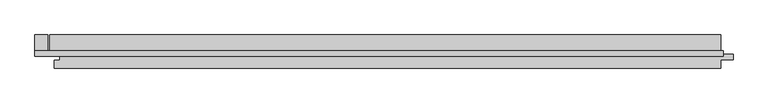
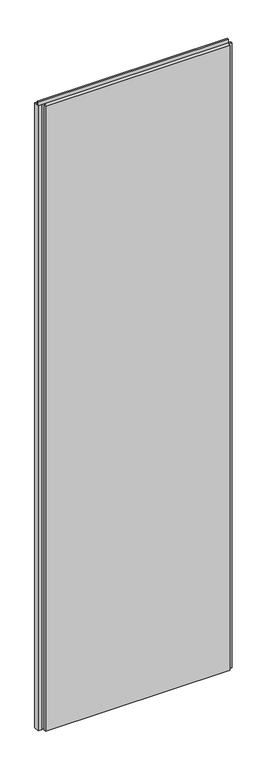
"""IFC4 building model written with IfcOpenShell, lengths in millimetres: plate geometry, Trimo_Qbiss Screen_Normal Panel-VERTICAL : HR - FB."""

from ifc_helpers import new_model, si_unit, frame, origin, place, context, project, spatial, polyline, outline, extrude, source, transform, mapped, element, save


def plate_8625c289(model_context):
    return source(origin(), model_context, "Body", "SweptSolid", [
        extrude(outline(polyline([(-531.0, 97.0), (-531.0, 126.0), (-512.0, 126.0), (-512.0, 97.0), (-531.0, 97.0)])), frame((0.0, 0.0, 12.5), z_axis=(0.0, 0.0, 1.0), x_axis=(1.0, 0.0, 0.0)), (0.0, 0.0, 1.0), 3575.0),
        extrude(outline(polyline([(-531.0, 93.9), (-531.0, 102.6), (500.0, 102.6), (500.0, 93.9), (-531.0, 93.9)])), frame((0.0, 0.0, 3590.5), z_axis=(0.0, 0.0, 1.0), x_axis=(1.0, 0.0, 0.0)), (0.0, 0.0, 1.0), 19.0),
        extrude(outline(polyline([(496.0, 97.0), (514.5, 97.0), (514.5, 89.0), (496.0, 89.0), (496.0, 76.0), (-502.0, 76.0), (-502.0, 88.0), (-493.5, 88.0), (-493.5, 98.0), (-509.0, 98.0), (-509.0, 126.0), (496.0, 126.0), (496.0, 97.0)])), frame((0.0, 0.0, 12.5), z_axis=(0.0, 0.0, 1.0), x_axis=(1.0, 0.0, 0.0)), (0.0, 0.0, 1.0), 3575.0),
    ])


if __name__ == "__main__":
    model = new_model("IFC4")
    model_context = context("Model", 3, world=origin())
    ifc_project = project(units=[si_unit("LENGTHUNIT", "METRE", prefix="MILLI")], contexts=[model_context])
    site = spatial("IfcSite", under=ifc_project)
    building = spatial("IfcBuilding", under=site)
    placement = place(None, origin())
    plate_shape = plate_8625c289(model_context)
    element("IfcPlate", 1, ObjectType="Trimo_Qbiss Screen_Normal Panel-VERTICAL : HR - FB", at=placement, inside=building, context=model_context, shape_type="MappedRepresentation", body=[
        mapped(plate_shape, transform((0.0, 0.0, 0.0), x_axis=(1.0, 0.0, 0.0), y_axis=(0.0, 1.0, 0.0), z_axis=(0.0, 0.0, 1.0))),
    ])
    save(model, "model.ifc")
